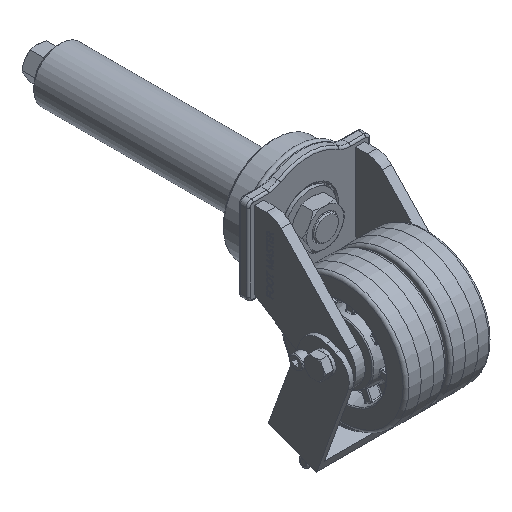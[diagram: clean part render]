
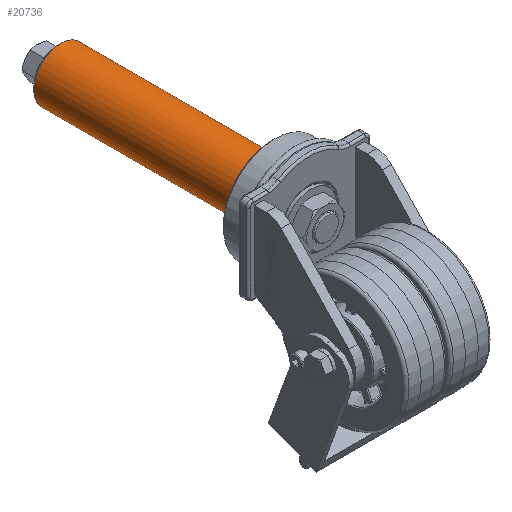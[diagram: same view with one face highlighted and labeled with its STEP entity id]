
A CAD part, isometric view. The second image highlights one B-rep face of the part: STEP entity #20736.
In plain terms, the highlighted cylindrical face has radius 26 mm (diameter 52 mm), a full revolution.
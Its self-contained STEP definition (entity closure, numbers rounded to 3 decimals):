
#1516=CYLINDRICAL_SURFACE('',#22872,26.);
#3311=FACE_OUTER_BOUND('',#4687,.T.);
#4687=EDGE_LOOP('',(#19143,#19144,#19145,#19146,#19147));
#5819=LINE('',#48959,#6914);
#6914=VECTOR('',#28120,26.);
#8192=CIRCLE('',#22867,26.);
#8193=CIRCLE('',#22869,26.);
#8195=CIRCLE('',#22871,26.);
#10042=VERTEX_POINT('',#48948);
#10043=VERTEX_POINT('',#48951);
#10044=VERTEX_POINT('',#48952);
#13096=EDGE_CURVE('',#10042,#10042,#8192,.T.);
#13097=EDGE_CURVE('',#10043,#10044,#8193,.T.);
#13100=EDGE_CURVE('',#10044,#10043,#8195,.T.);
#13101=EDGE_CURVE('',#10043,#10042,#5819,.T.);
#19143=ORIENTED_EDGE('',*,*,#13097,.F.);
#19144=ORIENTED_EDGE('',*,*,#13101,.T.);
#19145=ORIENTED_EDGE('',*,*,#13096,.F.);
#19146=ORIENTED_EDGE('',*,*,#13101,.F.);
#19147=ORIENTED_EDGE('',*,*,#13100,.F.);
#20736=ADVANCED_FACE('',(#3311),#1516,.T.);
#22867=AXIS2_PLACEMENT_3D('',#48949,#28107,#28108);
#22869=AXIS2_PLACEMENT_3D('',#48953,#28111,#28112);
#22871=AXIS2_PLACEMENT_3D('',#48957,#28116,#28117);
#22872=AXIS2_PLACEMENT_3D('',#48958,#28118,#28119);
#28107=DIRECTION('center_axis',(0.,-1.,0.));
#28108=DIRECTION('ref_axis',(-1.,0.,0.));
#28111=DIRECTION('center_axis',(0.,1.,0.));
#28112=DIRECTION('ref_axis',(1.,0.,0.));
#28116=DIRECTION('center_axis',(0.,1.,0.));
#28117=DIRECTION('ref_axis',(1.,0.,0.));
#28118=DIRECTION('center_axis',(0.,1.,0.));
#28119=DIRECTION('ref_axis',(-1.,0.,0.));
#28120=DIRECTION('',(0.,-1.,0.));
#48948=CARTESIAN_POINT('',(26.,33.,0.));
#48949=CARTESIAN_POINT('Origin',(0.,33.,0.));
#48951=CARTESIAN_POINT('',(26.,230.,0.));
#48952=CARTESIAN_POINT('',(-26.,230.,0.));
#48953=CARTESIAN_POINT('Origin',(0.,230.,0.));
#48957=CARTESIAN_POINT('Origin',(0.,230.,0.));
#48958=CARTESIAN_POINT('Origin',(0.,33.,0.));
#48959=CARTESIAN_POINT('',(26.,33.,0.));
